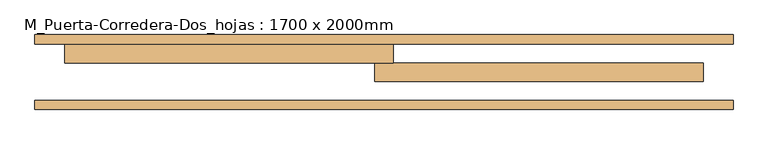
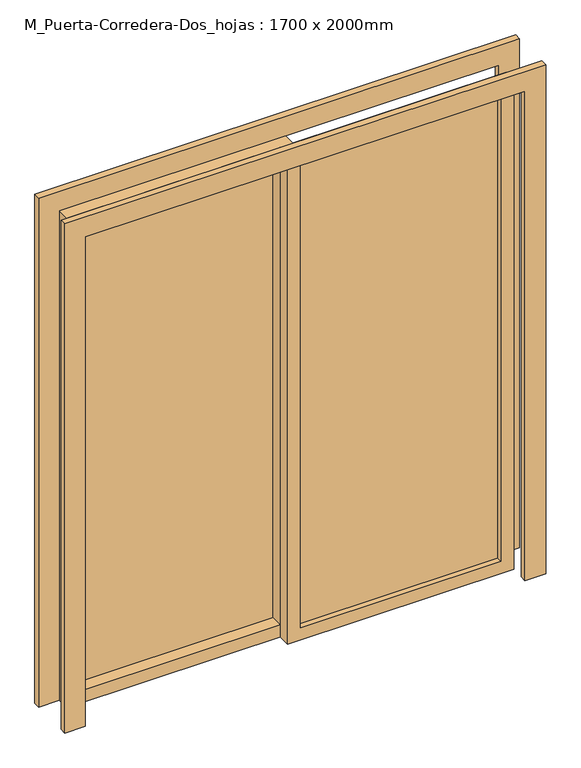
"""IFC4 building model written with IfcOpenShell, lengths in millimetres: door geometry, M_Puerta-Corredera-Dos_hojas : 1700 x 2000mm."""

from ifc_helpers import new_model, si_unit, frame, origin, place, context, project, spatial, polyline, outline, extrude, source, transform, mapped, element, save


def m_puerta_corredera_dos_hojas_1700_x_2000mm_d36f6dca(model_context):
    return source(origin(), model_context, "Body", "SweptSolid", [
        extrude(outline(polyline([(0.0, 930.0), (2080.0, 930.0), (2080.0, -930.0), (0.0, -930.0), (0.0, -850.0), (2000.0, -850.0), (2000.0, 850.0), (0.0, 850.0), (0.0, 930.0)])), frame((0.0, 202.0, 0.0), z_axis=(0.0, 1.0, 0.0), x_axis=(0.0, 0.0, 1.0)), (0.0, 0.0, 1.0), 25.0),
        extrude(outline(polyline([(0.0, -930.0), (0.0, -850.0), (2000.0, -850.0), (2000.0, 850.0), (0.0, 850.0), (0.0, 930.0), (2080.0, 930.0), (2080.0, -930.0), (0.0, -930.0)])), frame((0.0, 27.0, 0.0), z_axis=(0.0, 1.0, 0.0), x_axis=(0.0, 0.0, 1.0)), (0.0, 0.0, 1.0), 25.0),
        extrude(outline(polyline([(2000.0, 25.0), (2000.0, -850.0), (0.0, -850.0), (0.0, 25.0), (2000.0, 25.0)]), holes=[polyline([(1950.0, -25.0), (50.0, -25.0), (50.0, -800.0), (1950.0, -800.0), (1950.0, -25.0)])]), frame((0.0, 152.0, 0.0), z_axis=(0.0, 1.0, 0.0), x_axis=(0.0, 0.0, 1.0)), (0.0, 0.0, 1.0), 50.0),
        extrude(outline(polyline([(2000.0, -25.0), (0.0, -25.0), (0.0, 850.0), (2000.0, 850.0), (2000.0, -25.0)]), holes=[polyline([(1950.0, 25.0), (1950.0, 800.0), (50.0, 800.0), (50.0, 25.0), (1950.0, 25.0)])]), frame((0.0, 102.0, 0.0), z_axis=(0.0, 1.0, 0.0), x_axis=(0.0, 0.0, 1.0)), (0.0, 0.0, 1.0), 50.0),
        extrude(outline(polyline([(-25.0, 200.025), (-800.0, 200.025), (-800.0, 206.375), (-25.0, 206.375), (-25.0, 200.025)])), frame((0.0, 0.0, 50.0), z_axis=(0.0, 0.0, 1.0), x_axis=(1.0, 0.0, 0.0)), (0.0, 0.0, 1.0), 1900.0),
        extrude(outline(polyline([(25.0, 130.175), (800.0, 130.175), (800.0, 123.825), (25.0, 123.825), (25.0, 130.175)])), frame((0.0, 0.0, 50.0), z_axis=(0.0, 0.0, 1.0), x_axis=(1.0, 0.0, 0.0)), (0.0, 0.0, 1.0), 1900.0),
    ])


if __name__ == "__main__":
    model = new_model("IFC4")
    model_context = context("Model", 3, world=origin())
    ifc_project = project(units=[si_unit("LENGTHUNIT", "METRE", prefix="MILLI")], contexts=[model_context])
    site = spatial("IfcSite", under=ifc_project)
    building = spatial("IfcBuilding", under=site)
    placement = place(None, origin())
    m_puerta_corredera_dos_hojas_1700_x_2000mm_shape = m_puerta_corredera_dos_hojas_1700_x_2000mm_d36f6dca(model_context)
    element("IfcDoor", 1, ObjectType="M_Puerta-Corredera-Dos_hojas : 1700 x 2000mm", at=placement, inside=building, context=model_context, shape_type="MappedRepresentation", body=[
        mapped(m_puerta_corredera_dos_hojas_1700_x_2000mm_shape, transform((0.0, 0.0, 0.0), x_axis=(1.0, 0.0, 0.0), y_axis=(0.0, 1.0, 0.0), z_axis=(0.0, 0.0, 1.0))),
    ])
    save(model, "model.ifc")
